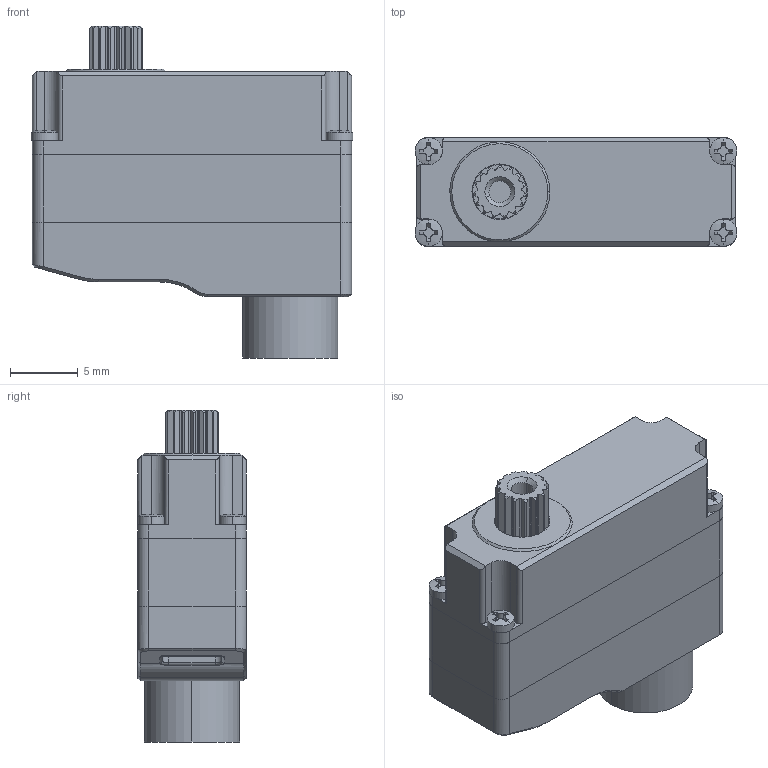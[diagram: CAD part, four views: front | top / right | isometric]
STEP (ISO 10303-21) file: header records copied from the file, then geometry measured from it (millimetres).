
FILE_DESCRIPTION (( 'STEP AP214' ), '1' );
FILE_NAME ('X08N-3.2_DM_20231028.STEP', '2023-10-28T05:27:34', ( '' ), ( '' ), 'SwSTEP 2.0', 'SolidWorks 2016', '' );
FILE_SCHEMA (( 'AUTOMOTIVE_DESIGN' ));
Length unit declared in the file: millimetre
Products named in the file (1): X08N-3.2_DM_20231028
Bounding box: 23.7 x 8 x 24.45 mm (x, y, z)
Surface area: 2163.3 mm2 (no closed solid volume)
Topology: 0 solids, 11 shells, 291 faces, 881 edges, 598 vertices
Faces by surface type: plane 135, cylinder 113, cone 27, sphere 8, bspline 8
Entity records: 13945 total; most frequent: CARTESIAN_POINT 2977, ORIENTED_EDGE 1615, DIRECTION 1592, EDGE_CURVE 881, VERTEX_POINT 598, AXIS2_PLACEMENT_3D 579, VECTOR 434, LINE 434
